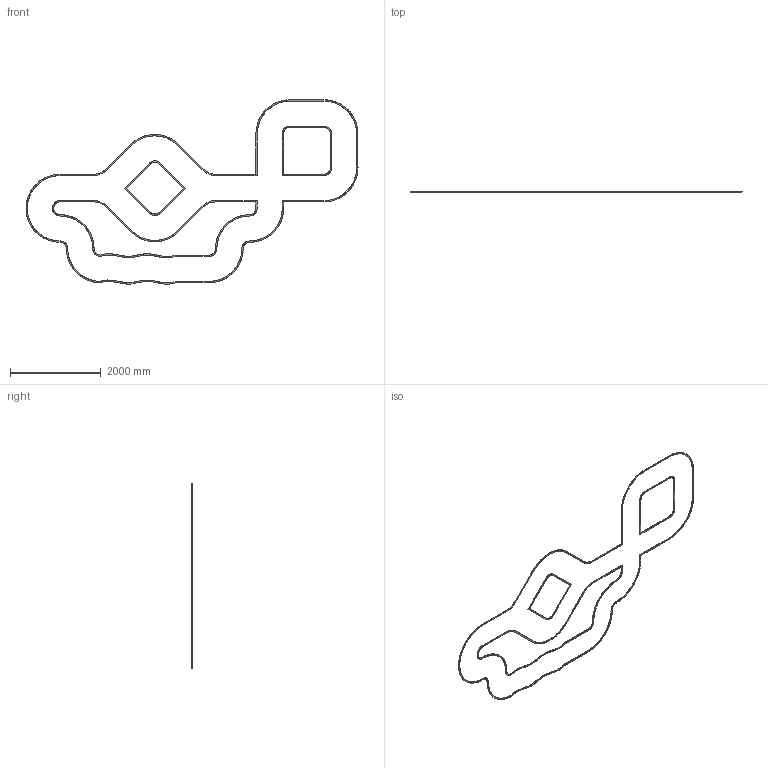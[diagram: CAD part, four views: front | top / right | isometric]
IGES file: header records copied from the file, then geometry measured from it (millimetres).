
Start section: SolidWorks IGES file using analytic representation for surfaces
Global section: file name: C:\Users\nxf80477\Downloads\Track\Part331.IGS; native system: SolidWorks 2023; preprocessor: SolidWorks 2023; author: nxf80477; date: 240731.101503; units: millimetre
Bounding box: 7315.94 x 10 x 4062.03 mm (x, y, z)
Surface area: 3132105.7 mm2 (no closed solid volume)
Topology: 0 solids, 0 shells, 141 faces, 1938 edges, 1938 vertices
Faces by surface type: bspline 72, revolution 69
